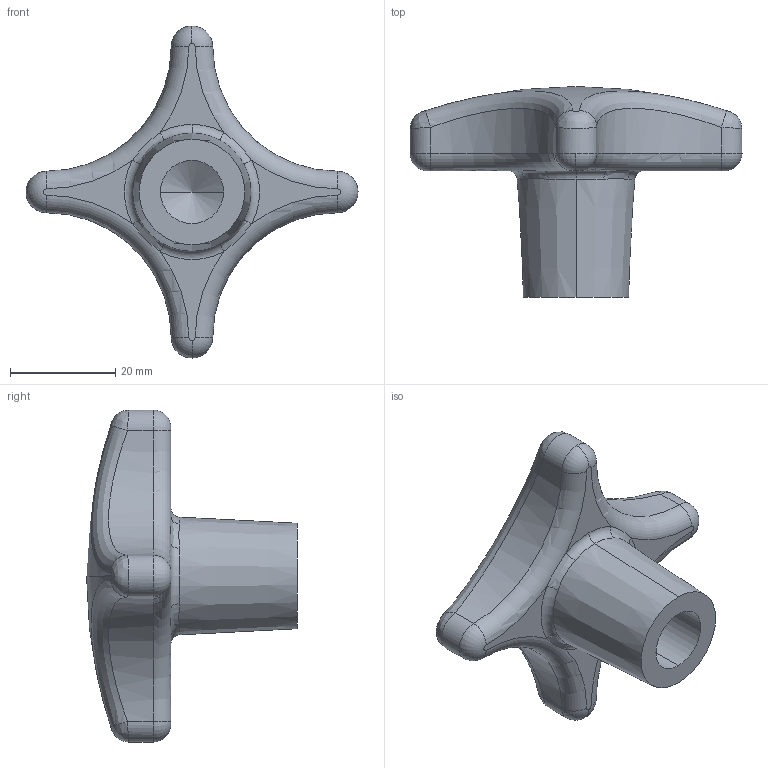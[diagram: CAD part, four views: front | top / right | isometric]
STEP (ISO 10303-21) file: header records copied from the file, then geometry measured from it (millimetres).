
FILE_DESCRIPTION (( 'STEP AP203' ), '1' );
FILE_NAME ('70040.W0263.step', '2019-01-26T19:29:57', ( '' ), ( '' ), 'SwSTEP 2.0', 'SolidWorks 2017', '' );
FILE_SCHEMA (( 'CONFIG_CONTROL_DESIGN' ));
Length unit declared in the file: millimetre
Products named in the file (1): 70040.W0263
Bounding box: 63 x 40 x 63 mm (x, y, z)
Volume: 24650.6 mm3; surface area: 7291.6 mm2
Topology: 1 solids, 1 shells, 49 faces, 116 edges, 68 vertices
Faces by surface type: torus 15, bspline 12, cylinder 11, plane 5, cone 4, sphere 2
Entity records: 2838 total; most frequent: CARTESIAN_POINT 1687, DIRECTION 235, ORIENTED_EDGE 228, EDGE_CURVE 114, AXIS2_PLACEMENT_3D 110, CIRCLE 72, VERTEX_POINT 68, EDGE_LOOP 50
